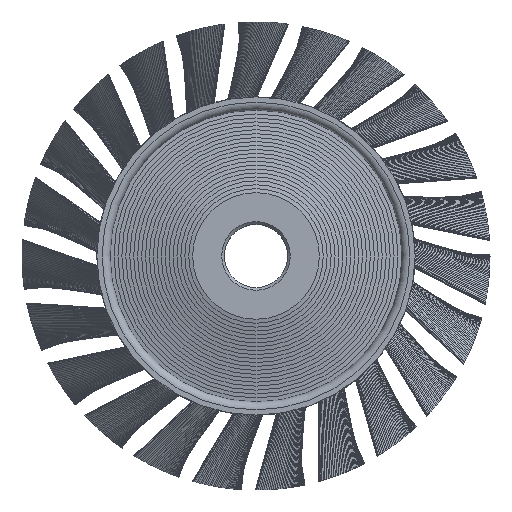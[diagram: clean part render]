
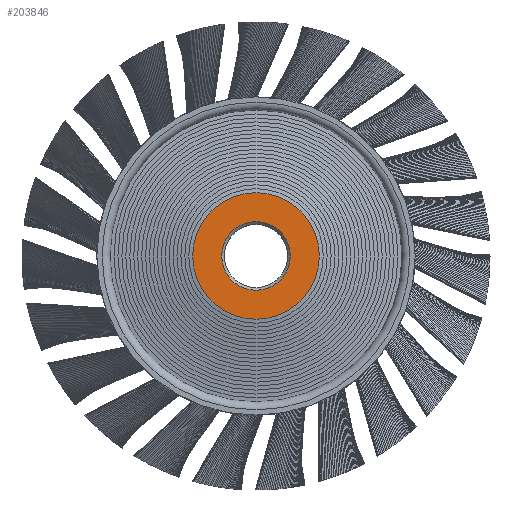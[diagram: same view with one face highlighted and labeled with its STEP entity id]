
A CAD part, top view. The second image highlights one B-rep face of the part: STEP entity #203846.
In plain terms, the highlighted planar face has unit normal (0, 0, 1).
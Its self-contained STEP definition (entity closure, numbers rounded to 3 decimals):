
#203689 = CYLINDRICAL_SURFACE('',#203690,12.);
#203690 = AXIS2_PLACEMENT_3D('',#203691,#203692,#203693);
#203691 = CARTESIAN_POINT('',(0.,0.,202.235));
#203692 = DIRECTION('',(0.,0.,1.));
#203693 = DIRECTION('',(1.,0.,-0.));
#203762 = VERTEX_POINT('',#203763);
#203763 = CARTESIAN_POINT('',(12.,0.,204.));
#203784 = EDGE_CURVE('',#203762,#203762,#203785,.T.);
#203785 = SURFACE_CURVE('',#203786,(#203791,#203798),.PCURVE_S1.);
#203786 = CIRCLE('',#203787,12.);
#203787 = AXIS2_PLACEMENT_3D('',#203788,#203789,#203790);
#203788 = CARTESIAN_POINT('',(0.,0.,204.));
#203789 = DIRECTION('',(0.,0.,1.));
#203790 = DIRECTION('',(1.,0.,-0.));
#203791 = PCURVE('',#203689,#203792);
#203792 = DEFINITIONAL_REPRESENTATION('',(#203793),#203797);
#203793 = LINE('',#203794,#203795);
#203794 = CARTESIAN_POINT('',(0.,1.765));
#203795 = VECTOR('',#203796,1.);
#203796 = DIRECTION('',(1.,0.));
#203797 = ( GEOMETRIC_REPRESENTATION_CONTEXT(2) 
PARAMETRIC_REPRESENTATION_CONTEXT() REPRESENTATION_CONTEXT('2D SPACE',''
  ) );
#203798 = PCURVE('',#203799,#203804);
#203799 = PLANE('',#203800);
#203800 = AXIS2_PLACEMENT_3D('',#203801,#203802,#203803);
#203801 = CARTESIAN_POINT('',(0.,0.,204.));
#203802 = DIRECTION('',(0.,0.,1.));
#203803 = DIRECTION('',(1.,0.,-0.));
#203804 = DEFINITIONAL_REPRESENTATION('',(#203805),#203809);
#203805 = CIRCLE('',#203806,12.);
#203806 = AXIS2_PLACEMENT_2D('',#203807,#203808);
#203807 = CARTESIAN_POINT('',(0.,0.));
#203808 = DIRECTION('',(1.,0.));
#203809 = ( GEOMETRIC_REPRESENTATION_CONTEXT(2) 
PARAMETRIC_REPRESENTATION_CONTEXT() REPRESENTATION_CONTEXT('2D SPACE',''
  ) );
#203846 = ADVANCED_FACE('',(#203847,#203850),#203799,.T.);
#203847 = FACE_BOUND('',#203848,.T.);
#203848 = EDGE_LOOP('',(#203849));
#203849 = ORIENTED_EDGE('',*,*,#203784,.T.);
#203850 = FACE_BOUND('',#203851,.T.);
#203851 = EDGE_LOOP('',(#203852));
#203852 = ORIENTED_EDGE('',*,*,#203853,.F.);
#203853 = EDGE_CURVE('',#203854,#203854,#203856,.T.);
#203854 = VERTEX_POINT('',#203855);
#203855 = CARTESIAN_POINT('',(6.5,0.,204.));
#203856 = SURFACE_CURVE('',#203857,(#203862,#203869),.PCURVE_S1.);
#203857 = CIRCLE('',#203858,6.5);
#203858 = AXIS2_PLACEMENT_3D('',#203859,#203860,#203861);
#203859 = CARTESIAN_POINT('',(0.,0.,204.));
#203860 = DIRECTION('',(0.,0.,1.));
#203861 = DIRECTION('',(1.,0.,-0.));
#203862 = PCURVE('',#203799,#203863);
#203863 = DEFINITIONAL_REPRESENTATION('',(#203864),#203868);
#203864 = CIRCLE('',#203865,6.5);
#203865 = AXIS2_PLACEMENT_2D('',#203866,#203867);
#203866 = CARTESIAN_POINT('',(0.,0.));
#203867 = DIRECTION('',(1.,0.));
#203868 = ( GEOMETRIC_REPRESENTATION_CONTEXT(2) 
PARAMETRIC_REPRESENTATION_CONTEXT() REPRESENTATION_CONTEXT('2D SPACE',''
  ) );
#203869 = PCURVE('',#203870,#203875);
#203870 = CONICAL_SURFACE('',#203871,6.,0.785);
#203871 = AXIS2_PLACEMENT_3D('',#203872,#203873,#203874);
#203872 = CARTESIAN_POINT('',(0.,0.,203.5));
#203873 = DIRECTION('',(0.,0.,1.));
#203874 = DIRECTION('',(1.,0.,-0.));
#203875 = DEFINITIONAL_REPRESENTATION('',(#203876),#203880);
#203876 = LINE('',#203877,#203878);
#203877 = CARTESIAN_POINT('',(0.,0.5));
#203878 = VECTOR('',#203879,1.);
#203879 = DIRECTION('',(1.,0.));
#203880 = ( GEOMETRIC_REPRESENTATION_CONTEXT(2) 
PARAMETRIC_REPRESENTATION_CONTEXT() REPRESENTATION_CONTEXT('2D SPACE',''
  ) );
